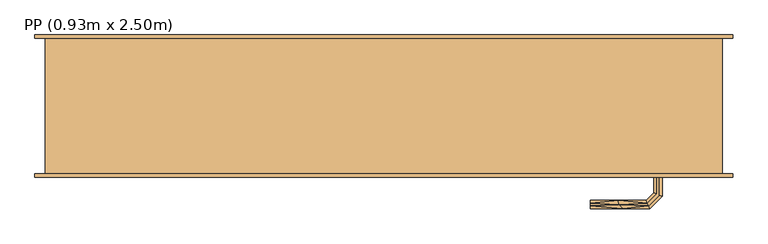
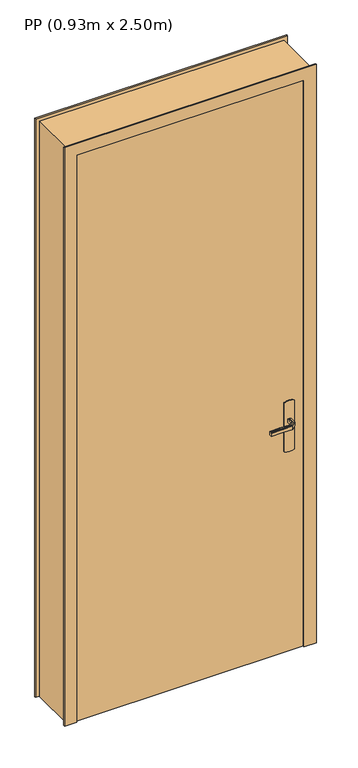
"""IFC4 building model written with IfcOpenShell, lengths in millimetres: door geometry, PP (0.93m x 2.50m)."""

from ifc_helpers import new_model, si_unit, frame, origin, origin_with_axes, place, context, project, spatial, polyline, outline, extrude, faceted_brep, source, transform, mapped, element, save


def pp_0_93m_x_2_50m_b0f00d61(model_context):
    return source(origin(), model_context, "Body", "SolidModel", [
        faceted_brep([(972.9747013, 45.0, 992.2195592), (977.0252987, 45.0, 992.2195592), (981.0, 45.0, 993.0), (981.0, 45.0, 1007.0), (977.0252987, 45.0, 1007.7804408), (972.9747013, 45.0, 1007.7804408), (969.0, 45.0, 1007.0), (969.0, 45.0, 993.0), (969.0, 67.4852045, 1007.0), (969.0, 67.4852045, 993.0), (972.9747013, 69.1315797, 1007.7804408), (977.0252987, 70.8093921, 1007.7804408), (960.8389062, 86.9957845, 1007.7804408), (959.1610938, 82.9451872, 1007.7804408), (981.0, 72.4557673, 1007.0), (981.0, 72.4557673, 993.0), (977.0252987, 70.8093921, 992.2195592), (972.9747013, 69.1315797, 992.2195592), (959.1610938, 82.9451872, 992.2195592), (960.8389062, 86.9957845, 992.2195592), (957.5147186, 78.9704859, 1007.0), (957.5147186, 78.9704859, 993.0), (962.4852814, 90.9704859, 1007.0), (962.4852814, 90.9704859, 993.0), (874.9542163, 82.9451872, 1007.7804408), (874.9542163, 86.9957845, 1007.7804408), (874.9542163, 90.9704859, 1007.0), (874.9542163, 90.9704859, 993.0), (874.9542163, 86.9957845, 992.2195592), (874.9542163, 82.9451872, 992.2195592), (874.9542163, 78.9704859, 993.0), (874.9542163, 78.9704859, 1007.0), (916.2344675, 78.9704859, 1007.0), (916.2344794, 78.9704859, 993.0), (917.0576551, 84.9704859, 1007.8786868), (922.5547942, 90.9704859, 1007.0), (922.5547957, 90.9704859, 993.0), (917.0576549, 84.9704858, 992.1213132)], [[[0, 1, 2, 3, 4, 5, 6, 7]], [[8, 9, 7, 6]], [[5, 10, 8, 6]], [[5, 4, 11, 12, 13, 10]], [[3, 14, 11, 4]], [[14, 3, 2, 15]], [[2, 1, 16, 15]], [[1, 0, 17, 18, 19, 16]], [[0, 7, 9, 17]], [[20, 21, 9, 8]], [[8, 10, 13, 20]], [[14, 22, 12, 11]], [[23, 22, 14, 15]], [[15, 16, 19, 23]], [[17, 9, 21, 18]], [[24, 25, 26, 27, 28, 29, 30, 31]], [[21, 20, 32, 31, 30, 33]], [[34, 24, 32]], [[25, 34, 35]], [[13, 32, 20]], [[24, 31, 32]], [[25, 35, 26]], [[35, 12, 22]], [[34, 12, 35]], [[34, 13, 12]], [[34, 32, 13]], [[24, 34, 25]], [[22, 23, 36, 27, 26, 35]], [[37, 28, 36]], [[36, 28, 27]], [[36, 23, 19]], [[18, 33, 37]], [[33, 18, 21]], [[30, 29, 33]], [[37, 29, 28]], [[37, 33, 29]], [[37, 36, 19]], [[18, 37, 19]]]),
        extrude(outline(polyline([(870.0, 995.0), (1080.0, 995.0), (1083.9960169, 985.3527618), (1085.3589838, 975.0), (1083.9960169, 964.6472382), (1080.0, 955.0), (870.0, 955.0), (866.0039831, 964.6472382), (864.6410162, 975.0), (866.0039831, 985.3527618), (870.0, 995.0)])), frame((0.0, 40.0, 0.0), z_axis=(0.0, 1.0, 0.0), x_axis=(0.0, 0.0, 1.0)), (0.0, 0.0, 1.0), 5.0),
        faceted_brep([(1070.0, 200.0, 0.0), (1070.0, 0.0, 0.0), (1085.0, 0.0, 0.0), (1085.0, -5.0, 0.0), (1035.0, -5.0, 0.0), (1035.0, 40.0, 0.0), (1020.0, 40.0, 0.0), (1020.0, 205.0, 0.0), (1085.0, 205.0, 0.0), (1085.0, 200.0, 0.0), (1085.0, 200.0, 2500.0), (55.0, 200.0, 2500.0), (55.0, 200.0, 0.0), (70.0, 200.0, 0.0), (70.0, 200.0, 2485.0), (1070.0, 200.0, 2485.0), (1085.0, 205.0, 2500.0), (1020.0, 205.0, 2435.0), (120.0, 205.0, 2435.0), (120.0, 205.0, 0.0), (55.0, 205.0, 0.0), (55.0, 205.0, 2500.0), (1020.0, 40.0, 2435.0), (1035.0, 40.0, 2450.0), (105.0, 40.0, 2450.0), (105.0, 40.0, 0.0), (120.0, 40.0, 0.0), (120.0, 40.0, 2435.0), (1035.0, -5.0, 2450.0), (1085.0, -5.0, 2500.0), (55.0, -5.0, 2500.0), (55.0, -5.0, 0.0), (105.0, -5.0, 0.0), (105.0, -5.0, 2450.0), (1085.0, 0.0, 2500.0), (1070.0, 0.0, 2485.0), (70.0, 0.0, 2485.0), (70.0, 0.0, 0.0), (55.0, 0.0, 0.0), (55.0, 0.0, 2500.0)], [[[0, 1, 2, 3, 4, 5, 6, 7, 8, 9]], [[9, 10, 11, 12, 13, 14, 15, 0]], [[8, 16, 10, 9]], [[7, 17, 18, 19, 20, 21, 16, 8]], [[7, 6, 22, 17]], [[5, 23, 24, 25, 26, 27, 22, 6]], [[5, 4, 28, 23]], [[3, 29, 30, 31, 32, 33, 28, 4]], [[2, 34, 29, 3]], [[1, 35, 36, 37, 38, 39, 34, 2]], [[0, 15, 35, 1]], [[14, 13, 37, 36]], [[13, 12, 20, 19, 26, 25, 32, 31, 38, 37]], [[21, 20, 12, 11]], [[27, 26, 19, 18]], [[33, 32, 25, 24]], [[39, 38, 31, 30]], [[16, 21, 11, 10]], [[22, 27, 18, 17]], [[28, 33, 24, 23]], [[34, 39, 30, 29]], [[15, 14, 36, 35]]]),
        faceted_brep([(972.9747013, -5.0, 1007.7804408), (977.0252987, -5.0, 1007.7804408), (981.0, -5.0, 1007.0), (981.0, -5.0, 993.0), (977.0252987, -5.0, 992.2195592), (972.9747013, -5.0, 992.2195592), (969.0, -5.0, 993.0), (969.0, -5.0, 1007.0), (977.0252987, -31.0045755, 1007.7804408), (981.0, -32.6509507, 1007.0), (972.9747013, -29.3267632, 1007.7804408), (959.2986025, -43.002862, 1007.7804408), (960.9764148, -47.0534593, 1007.7804408), (969.0, -27.680388, 1007.0), (969.0, -27.680388, 993.0), (972.9747013, -29.3267632, 992.2195592), (977.0252987, -31.0045755, 992.2195592), (960.9764148, -47.0534593, 992.2195592), (959.2986025, -43.002862, 992.2195592), (981.0, -32.6509507, 993.0), (962.62279, -51.0281607, 1007.0), (957.6522273, -39.0281607, 1007.0), (957.6522273, -39.0281607, 993.0), (962.62279, -51.0281607, 993.0), (874.9813594, -51.0281607, 1007.0), (874.9813594, -47.0534593, 1007.7804408), (874.9813594, -43.002862, 1007.7804408), (874.9813594, -39.0281607, 1007.0), (874.9813594, -39.0281607, 993.0), (874.9813594, -43.002862, 992.2195592), (874.9813594, -47.0534593, 992.2195592), (874.9813594, -51.0281607, 993.0), (917.1399809, -45.0281607, 1007.8786868), (922.6923028, -51.0281607, 1007.0), (916.3167933, -39.0281607, 1007.0), (916.3167933, -39.0281607, 993.0), (917.1399811, -45.0281608, 992.1213132), (922.6923104, -51.0281607, 993.0)], [[[0, 1, 2, 3, 4, 5, 6, 7]], [[2, 1, 8, 9]], [[1, 0, 10, 11, 12, 8]], [[0, 7, 13, 10]], [[14, 13, 7, 6]], [[5, 15, 14, 6]], [[5, 4, 16, 17, 18, 15]], [[3, 19, 16, 4]], [[9, 19, 3, 2]], [[9, 8, 12, 20]], [[10, 13, 21, 11]], [[22, 21, 13, 14]], [[14, 15, 18, 22]], [[16, 19, 23, 17]], [[20, 23, 19, 9]], [[24, 25, 26, 27, 28, 29, 30, 31]], [[32, 25, 33]], [[33, 25, 24]], [[33, 20, 12]], [[11, 34, 32]], [[34, 11, 21]], [[27, 26, 34]], [[32, 26, 25]], [[32, 34, 26]], [[32, 33, 12]], [[11, 32, 12]], [[21, 22, 35, 28, 27, 34]], [[36, 29, 35]], [[30, 36, 37]], [[18, 35, 22]], [[29, 28, 35]], [[30, 37, 31]], [[37, 17, 23]], [[36, 17, 37]], [[36, 18, 17]], [[36, 35, 18]], [[29, 36, 30]], [[23, 20, 33, 24, 31, 37]]]),
        extrude(outline(polyline([(1035.0, 40.0), (1035.0, 0.0), (105.0, 0.0), (105.0, 40.0), (1035.0, 40.0)])), origin_with_axes(), (0.0, 0.0, 1.0), 2450.0),
        extrude(outline(polyline([(870.0, 995.0), (1080.0, 995.0), (1083.9960169, 985.3527618), (1085.3589838, 975.0), (1083.9960169, 964.6472382), (1080.0, 955.0), (870.0, 955.0), (866.0039831, 964.6472382), (864.6410162, 975.0), (866.0039831, 985.3527618), (870.0, 995.0)])), frame((0.0, -5.0, 0.0), z_axis=(0.0, 1.0, 0.0), x_axis=(0.0, 0.0, 1.0)), (0.0, 0.0, 1.0), 5.0),
    ])


if __name__ == "__main__":
    model = new_model("IFC4")
    model_context = context("Model", 3, world=origin())
    ifc_project = project(units=[si_unit("LENGTHUNIT", "METRE", prefix="MILLI")], contexts=[model_context])
    site = spatial("IfcSite", under=ifc_project)
    building = spatial("IfcBuilding", under=site)
    placement = place(None, origin())
    pp_0_93m_x_2_50m_shape = pp_0_93m_x_2_50m_b0f00d61(model_context)
    element("IfcDoor", 1, ObjectType="PP (0.93m x 2.50m)", at=placement, inside=building, context=model_context, shape_type="MappedRepresentation", body=[
        mapped(pp_0_93m_x_2_50m_shape, transform((0.0, 0.0, 0.0), x_axis=(1.0, 0.0, 0.0), y_axis=(0.0, 1.0, 0.0), z_axis=(0.0, 0.0, 1.0))),
    ])
    save(model, "model.ifc")
